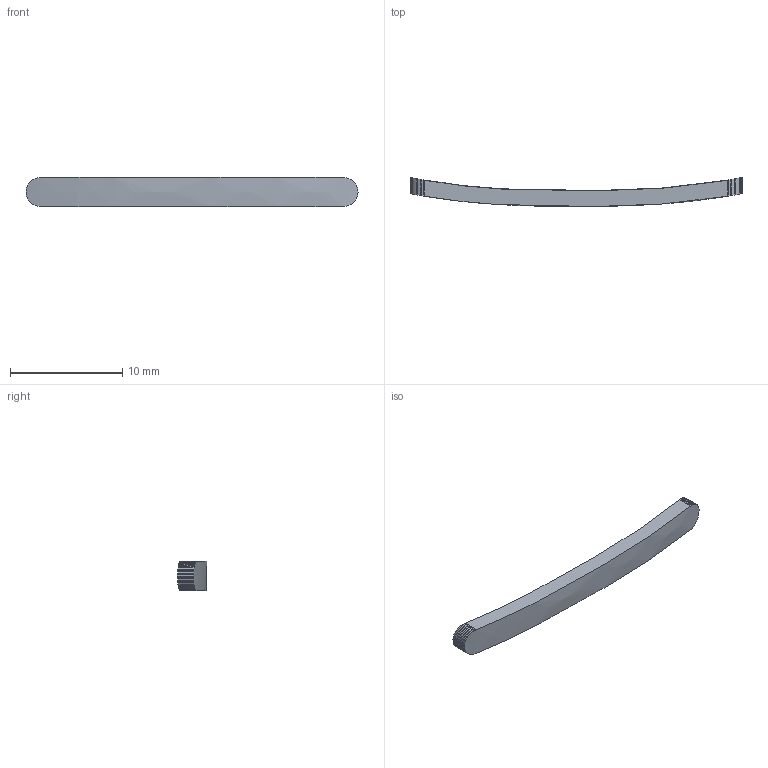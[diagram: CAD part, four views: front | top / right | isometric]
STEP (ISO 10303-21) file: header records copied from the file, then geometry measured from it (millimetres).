
FILE_DESCRIPTION(('Open CASCADE Model'),'2;1');
FILE_NAME('Open CASCADE Shape Model','2026-11-11T21:38:40',('Author'),( 'Open CASCADE'),'Open CASCADE STEP processor 8.0','build123d', 'Unknown');
FILE_SCHEMA(('AUTOMOTIVE_DESIGN { 1 0 10303 214 1 1 1 1 }'));
Length unit declared in the file: millimetre
Products named in the file (1): SOLID
Bounding box: 29.6 x 2.59 x 2.6 mm (x, y, z)
Volume: 106.2 mm3; surface area: 239.2 mm2
Topology: 1 solids, 1 shells, 68 faces, 198 edges, 132 vertices
Faces by surface type: plane 66, offset 2
Entity records: 31448 total; most frequent: CARTESIAN_POINT 28651, B_SPLINE_CURVE_WITH_KNOTS 594, ORIENTED_EDGE 396, PCURVE 396, DEFINITIONAL_REPRESENTATION 396, EDGE_CURVE 198, SURFACE_CURVE 198, DIRECTION 134
